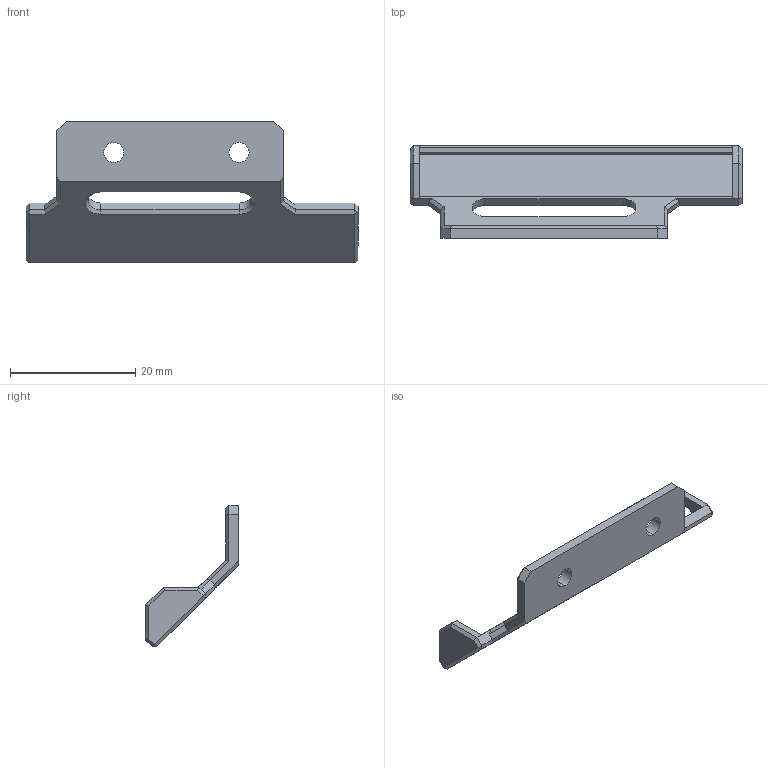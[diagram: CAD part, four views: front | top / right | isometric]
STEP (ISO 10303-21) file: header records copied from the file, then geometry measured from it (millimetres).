
FILE_DESCRIPTION (( 'STEP AP214' ), '1' );
FILE_NAME ('SV06 PLUS VORTEX LED Mod10mm.STEP', '2023-12-24T05:18:21', ( '' ), ( '' ), 'SwSTEP 2.0', 'SolidWorks 2016', '' );
FILE_SCHEMA (( 'AUTOMOTIVE_DESIGN' ));
Length unit declared in the file: millimetre
Products named in the file (2): SV06 PLUS VORTEX LED Mod10mm
Bounding box: 53 x 14.79 x 22.62 mm (x, y, z)
Volume: 1705 mm3; surface area: 2783.6 mm2
Topology: 1 solids, 1 shells, 88 faces, 211 edges, 125 vertices
Faces by surface type: plane 76, cylinder 8, cone 4
Entity records: 2520 total; most frequent: CARTESIAN_POINT 426, ORIENTED_EDGE 422, DIRECTION 411, EDGE_CURVE 211, VECTOR 191, LINE 191, VERTEX_POINT 125, AXIS2_PLACEMENT_3D 110
